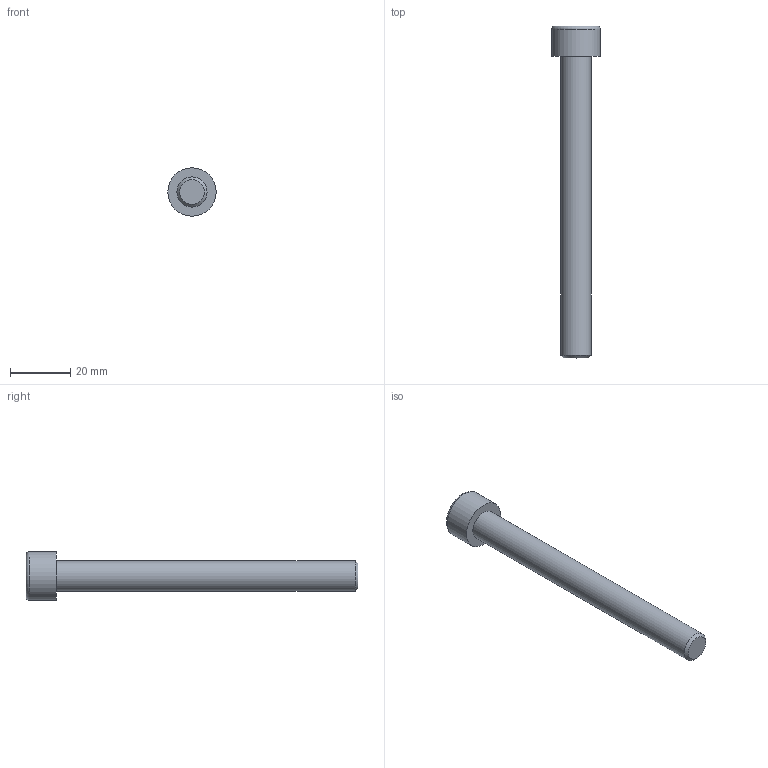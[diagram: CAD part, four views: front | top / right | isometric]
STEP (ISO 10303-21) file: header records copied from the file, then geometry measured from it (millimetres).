
FILE_DESCRIPTION(/* description */ (''),/* implementation_level */ '2;1');
FILE_NAME(/* name */ 'C:\Users\D\Documents\Inventor\各種小物\JIS\JIS B 1176 六角穴付きボルト\M10x100.stp',/* time_stamp */ '2022-05-09T18:52:00+09:00',/* author */ ('D'),/* organization */ (''),/* preprocessor_version */ 'ST-DEVELOPER v18',/* originating_system */ 'Autodesk Inventor 2020',/* authorisation */ '');
FILE_SCHEMA (('AUTOMOTIVE_DESIGN { 1 0 10303 214 3 1 1 }'));
Length unit declared in the file: millimetre
Products named in the file (1): M1.6x2.5
Bounding box: 16 x 110 x 16 mm (x, y, z)
Volume: 9506.6 mm3; surface area: 4160 mm2
Topology: 1 solids, 1 shells, 14 faces, 33 edges, 22 vertices
Faces by surface type: plane 9, cone 2, cylinder 2, torus 1
Full cylindrical faces by diameter (mm): 10 x1, 16 x1
Entity records: 435 total; most frequent: CARTESIAN_POINT 83, ORIENTED_EDGE 64, DIRECTION 64, EDGE_CURVE 32, AXIS2_PLACEMENT_3D 24, VERTEX_POINT 22, EDGE_LOOP 16, LINE 16
